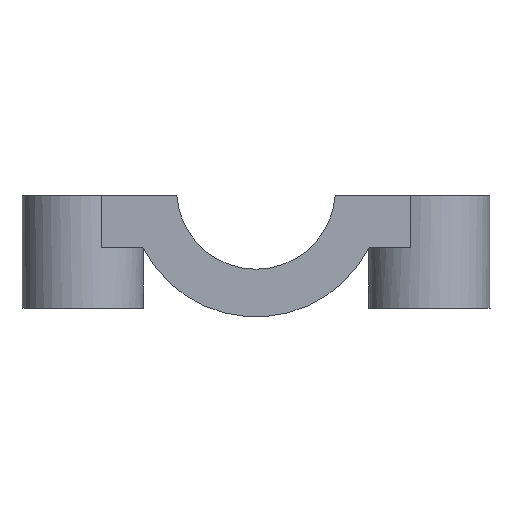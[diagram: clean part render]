
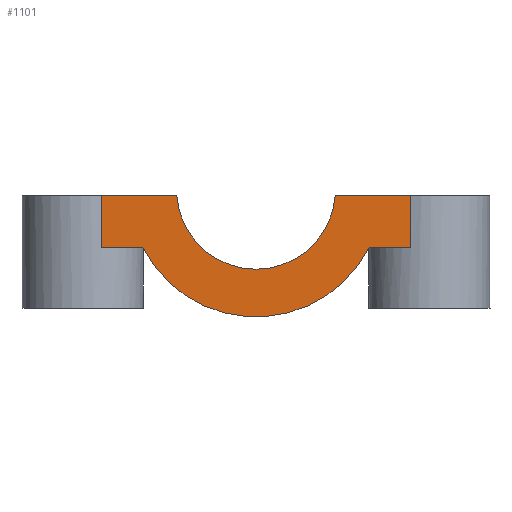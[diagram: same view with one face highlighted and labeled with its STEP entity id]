
A CAD part, left-side view. The second image highlights one B-rep face of the part: STEP entity #1101.
In plain terms, the highlighted planar face has unit normal (-1, 0, 0).
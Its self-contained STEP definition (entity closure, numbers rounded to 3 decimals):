
#44 = PLANE('',#45);
#45 = AXIS2_PLACEMENT_3D('',#46,#47,#48);
#46 = CARTESIAN_POINT('',(10.,-3.,-5.7));
#47 = DIRECTION('',(0.,0.,1.));
#48 = DIRECTION('',(1.,0.,0.));
#72 = CYLINDRICAL_SURFACE('',#73,2.1);
#73 = AXIS2_PLACEMENT_3D('',#74,#75,#76);
#74 = CARTESIAN_POINT('',(14.5,-1.,-9.6));
#75 = DIRECTION('',(0.,0.,1.));
#76 = DIRECTION('',(1.,0.,-0.));
#128 = CYLINDRICAL_SURFACE('',#129,4.4);
#129 = AXIS2_PLACEMENT_3D('',#130,#131,#132);
#130 = CARTESIAN_POINT('',(12.5,5.,-5.5));
#131 = DIRECTION('',(1.,0.,0.));
#132 = DIRECTION('',(-0.,0.,1.));
#184 = CYLINDRICAL_SURFACE('',#185,2.1);
#185 = AXIS2_PLACEMENT_3D('',#186,#187,#188);
#186 = CARTESIAN_POINT('',(14.5,11.,-9.6));
#187 = DIRECTION('',(0.,0.,1.));
#188 = DIRECTION('',(1.,0.,-0.));
#211 = PLANE('',#212);
#212 = AXIS2_PLACEMENT_3D('',#213,#214,#215);
#213 = CARTESIAN_POINT('',(10.,-3.,-5.7));
#214 = DIRECTION('',(0.,0.,1.));
#215 = DIRECTION('',(1.,0.,0.));
#339 = VERTEX_POINT('',#340);
#340 = CARTESIAN_POINT('',(12.5,2.257,-5.7));
#356 = CYLINDRICAL_SURFACE('',#357,2.75);
#357 = AXIS2_PLACEMENT_3D('',#358,#359,#360);
#358 = CARTESIAN_POINT('',(6.,5.,-5.5));
#359 = DIRECTION('',(1.,0.,0.));
#360 = DIRECTION('',(-0.,0.,1.));
#368 = EDGE_CURVE('',#339,#369,#371,.T.);
#369 = VERTEX_POINT('',#370);
#370 = CARTESIAN_POINT('',(12.5,-0.36,-5.7));
#371 = SURFACE_CURVE('',#372,(#376,#383),.PCURVE_S1.);
#372 = LINE('',#373,#374);
#373 = CARTESIAN_POINT('',(12.5,2.257,-5.7));
#374 = VECTOR('',#375,1.);
#375 = DIRECTION('',(0.,-1.,0.));
#376 = PCURVE('',#44,#377);
#377 = DEFINITIONAL_REPRESENTATION('',(#378),#382);
#378 = LINE('',#379,#380);
#379 = CARTESIAN_POINT('',(2.5,5.257));
#380 = VECTOR('',#381,1.);
#381 = DIRECTION('',(0.,-1.));
#382 = ( GEOMETRIC_REPRESENTATION_CONTEXT(2) 
PARAMETRIC_REPRESENTATION_CONTEXT() REPRESENTATION_CONTEXT('2D SPACE',''
  ) );
#383 = PCURVE('',#384,#389);
#384 = PLANE('',#385);
#385 = AXIS2_PLACEMENT_3D('',#386,#387,#388);
#386 = CARTESIAN_POINT('',(12.5,5.,-5.5));
#387 = DIRECTION('',(1.,0.,0.));
#388 = DIRECTION('',(-0.,0.,1.));
#389 = DEFINITIONAL_REPRESENTATION('',(#390),#394);
#390 = LINE('',#391,#392);
#391 = CARTESIAN_POINT('',(-0.2,2.743));
#392 = VECTOR('',#393,1.);
#393 = DIRECTION('',(0.,1.));
#394 = ( GEOMETRIC_REPRESENTATION_CONTEXT(2) 
PARAMETRIC_REPRESENTATION_CONTEXT() REPRESENTATION_CONTEXT('2D SPACE',''
  ) );
#680 = VERTEX_POINT('',#681);
#681 = CARTESIAN_POINT('',(12.5,1.081,-7.5));
#694 = PLANE('',#695);
#695 = AXIS2_PLACEMENT_3D('',#696,#697,#698);
#696 = CARTESIAN_POINT('',(12.5,-1.,-7.5));
#697 = DIRECTION('',(0.,0.,1.));
#698 = DIRECTION('',(1.,0.,0.));
#705 = EDGE_CURVE('',#680,#706,#708,.T.);
#706 = VERTEX_POINT('',#707);
#707 = CARTESIAN_POINT('',(12.5,8.919,-7.5));
#708 = SURFACE_CURVE('',#709,(#714,#721),.PCURVE_S1.);
#709 = CIRCLE('',#710,4.4);
#710 = AXIS2_PLACEMENT_3D('',#711,#712,#713);
#711 = CARTESIAN_POINT('',(12.5,5.,-5.5));
#712 = DIRECTION('',(1.,0.,0.));
#713 = DIRECTION('',(-0.,0.,1.));
#714 = PCURVE('',#128,#715);
#715 = DEFINITIONAL_REPRESENTATION('',(#716),#720);
#716 = LINE('',#717,#718);
#717 = CARTESIAN_POINT('',(0.,0.));
#718 = VECTOR('',#719,1.);
#719 = DIRECTION('',(1.,0.));
#720 = ( GEOMETRIC_REPRESENTATION_CONTEXT(2) 
PARAMETRIC_REPRESENTATION_CONTEXT() REPRESENTATION_CONTEXT('2D SPACE',''
  ) );
#721 = PCURVE('',#384,#722);
#722 = DEFINITIONAL_REPRESENTATION('',(#723),#727);
#723 = CIRCLE('',#724,4.4);
#724 = AXIS2_PLACEMENT_2D('',#725,#726);
#725 = CARTESIAN_POINT('',(0.,0.));
#726 = DIRECTION('',(1.,0.));
#727 = ( GEOMETRIC_REPRESENTATION_CONTEXT(2) 
PARAMETRIC_REPRESENTATION_CONTEXT() REPRESENTATION_CONTEXT('2D SPACE',''
  ) );
#744 = PLANE('',#745);
#745 = AXIS2_PLACEMENT_3D('',#746,#747,#748);
#746 = CARTESIAN_POINT('',(12.5,5.,-7.5));
#747 = DIRECTION('',(0.,0.,1.));
#748 = DIRECTION('',(1.,0.,0.));
#872 = EDGE_CURVE('',#873,#369,#875,.T.);
#873 = VERTEX_POINT('',#874);
#874 = CARTESIAN_POINT('',(12.5,-0.36,-7.5));
#875 = SURFACE_CURVE('',#876,(#880,#886),.PCURVE_S1.);
#876 = LINE('',#877,#878);
#877 = CARTESIAN_POINT('',(12.5,-0.36,-9.6));
#878 = VECTOR('',#879,1.);
#879 = DIRECTION('',(0.,0.,1.));
#880 = PCURVE('',#72,#881);
#881 = DEFINITIONAL_REPRESENTATION('',(#882),#885);
#882 = B_SPLINE_CURVE_WITH_KNOTS('',1,(#883,#884),.UNSPECIFIED.,.F.,.F.,
  (2,2),(1.92,3.9),.PIECEWISE_BEZIER_KNOTS.);
#883 = CARTESIAN_POINT('',(2.832,1.92));
#884 = CARTESIAN_POINT('',(2.832,3.9));
#885 = ( GEOMETRIC_REPRESENTATION_CONTEXT(2) 
PARAMETRIC_REPRESENTATION_CONTEXT() REPRESENTATION_CONTEXT('2D SPACE',''
  ) );
#886 = PCURVE('',#384,#887);
#887 = DEFINITIONAL_REPRESENTATION('',(#888),#892);
#888 = LINE('',#889,#890);
#889 = CARTESIAN_POINT('',(-4.1,5.36));
#890 = VECTOR('',#891,1.);
#891 = DIRECTION('',(1.,0.));
#892 = ( GEOMETRIC_REPRESENTATION_CONTEXT(2) 
PARAMETRIC_REPRESENTATION_CONTEXT() REPRESENTATION_CONTEXT('2D SPACE',''
  ) );
#976 = EDGE_CURVE('',#977,#339,#979,.T.);
#977 = VERTEX_POINT('',#978);
#978 = CARTESIAN_POINT('',(12.5,7.743,-5.7));
#979 = SURFACE_CURVE('',#980,(#985,#992),.PCURVE_S1.);
#980 = CIRCLE('',#981,2.75);
#981 = AXIS2_PLACEMENT_3D('',#982,#983,#984);
#982 = CARTESIAN_POINT('',(12.5,5.,-5.5));
#983 = DIRECTION('',(-1.,0.,0.));
#984 = DIRECTION('',(0.,0.997,-0.073));
#985 = PCURVE('',#356,#986);
#986 = DEFINITIONAL_REPRESENTATION('',(#987),#991);
#987 = LINE('',#988,#989);
#988 = CARTESIAN_POINT('',(4.64,6.5));
#989 = VECTOR('',#990,1.);
#990 = DIRECTION('',(-1.,-0.));
#991 = ( GEOMETRIC_REPRESENTATION_CONTEXT(2) 
PARAMETRIC_REPRESENTATION_CONTEXT() REPRESENTATION_CONTEXT('2D SPACE',''
  ) );
#992 = PCURVE('',#384,#993);
#993 = DEFINITIONAL_REPRESENTATION('',(#994),#1002);
#994 = ( BOUNDED_CURVE() B_SPLINE_CURVE(2,(#995,#996,#997,#998,#999,
#1000,#1001),.UNSPECIFIED.,.T.,.F.) B_SPLINE_CURVE_WITH_KNOTS((1,2,2,2,2
    ,1),(-2.094,0.,2.094,4.189,6.283,
8.378),.UNSPECIFIED.) CURVE() GEOMETRIC_REPRESENTATION_ITEM() 
RATIONAL_B_SPLINE_CURVE((1.,0.5,1.,0.5,1.,0.5,1.)) REPRESENTATION_ITEM(
  '') );
#995 = CARTESIAN_POINT('',(-0.2,-2.743));
#996 = CARTESIAN_POINT('',(-4.951,-2.396));
#997 = CARTESIAN_POINT('',(-2.275,1.545));
#998 = CARTESIAN_POINT('',(0.4,5.485));
#999 = CARTESIAN_POINT('',(2.475,1.198));
#1000 = CARTESIAN_POINT('',(4.551,-3.089));
#1001 = CARTESIAN_POINT('',(-0.2,-2.743));
#1002 = ( GEOMETRIC_REPRESENTATION_CONTEXT(2) 
PARAMETRIC_REPRESENTATION_CONTEXT() REPRESENTATION_CONTEXT('2D SPACE',''
  ) );
#1101 = ADVANCED_FACE('',(#1102),#384,.F.);
#1102 = FACE_BOUND('',#1103,.F.);
#1103 = EDGE_LOOP('',(#1104,#1105,#1106,#1127,#1128,#1151,#1173,#1194));
#1104 = ORIENTED_EDGE('',*,*,#368,.T.);
#1105 = ORIENTED_EDGE('',*,*,#872,.F.);
#1106 = ORIENTED_EDGE('',*,*,#1107,.T.);
#1107 = EDGE_CURVE('',#873,#680,#1108,.T.);
#1108 = SURFACE_CURVE('',#1109,(#1113,#1120),.PCURVE_S1.);
#1109 = LINE('',#1110,#1111);
#1110 = CARTESIAN_POINT('',(12.5,-1.,-7.5));
#1111 = VECTOR('',#1112,1.);
#1112 = DIRECTION('',(0.,1.,0.));
#1113 = PCURVE('',#384,#1114);
#1114 = DEFINITIONAL_REPRESENTATION('',(#1115),#1119);
#1115 = LINE('',#1116,#1117);
#1116 = CARTESIAN_POINT('',(-2.,6.));
#1117 = VECTOR('',#1118,1.);
#1118 = DIRECTION('',(0.,-1.));
#1119 = ( GEOMETRIC_REPRESENTATION_CONTEXT(2) 
PARAMETRIC_REPRESENTATION_CONTEXT() REPRESENTATION_CONTEXT('2D SPACE',''
  ) );
#1120 = PCURVE('',#694,#1121);
#1121 = DEFINITIONAL_REPRESENTATION('',(#1122),#1126);
#1122 = LINE('',#1123,#1124);
#1123 = CARTESIAN_POINT('',(0.,0.));
#1124 = VECTOR('',#1125,1.);
#1125 = DIRECTION('',(0.,1.));
#1126 = ( GEOMETRIC_REPRESENTATION_CONTEXT(2) 
PARAMETRIC_REPRESENTATION_CONTEXT() REPRESENTATION_CONTEXT('2D SPACE',''
  ) );
#1127 = ORIENTED_EDGE('',*,*,#705,.T.);
#1128 = ORIENTED_EDGE('',*,*,#1129,.T.);
#1129 = EDGE_CURVE('',#706,#1130,#1132,.T.);
#1130 = VERTEX_POINT('',#1131);
#1131 = CARTESIAN_POINT('',(12.5,10.36,-7.5));
#1132 = SURFACE_CURVE('',#1133,(#1137,#1144),.PCURVE_S1.);
#1133 = LINE('',#1134,#1135);
#1134 = CARTESIAN_POINT('',(12.5,5.,-7.5));
#1135 = VECTOR('',#1136,1.);
#1136 = DIRECTION('',(0.,1.,0.));
#1137 = PCURVE('',#384,#1138);
#1138 = DEFINITIONAL_REPRESENTATION('',(#1139),#1143);
#1139 = LINE('',#1140,#1141);
#1140 = CARTESIAN_POINT('',(-2.,0.));
#1141 = VECTOR('',#1142,1.);
#1142 = DIRECTION('',(0.,-1.));
#1143 = ( GEOMETRIC_REPRESENTATION_CONTEXT(2) 
PARAMETRIC_REPRESENTATION_CONTEXT() REPRESENTATION_CONTEXT('2D SPACE',''
  ) );
#1144 = PCURVE('',#744,#1145);
#1145 = DEFINITIONAL_REPRESENTATION('',(#1146),#1150);
#1146 = LINE('',#1147,#1148);
#1147 = CARTESIAN_POINT('',(0.,0.));
#1148 = VECTOR('',#1149,1.);
#1149 = DIRECTION('',(0.,1.));
#1150 = ( GEOMETRIC_REPRESENTATION_CONTEXT(2) 
PARAMETRIC_REPRESENTATION_CONTEXT() REPRESENTATION_CONTEXT('2D SPACE',''
  ) );
#1151 = ORIENTED_EDGE('',*,*,#1152,.T.);
#1152 = EDGE_CURVE('',#1130,#1153,#1155,.T.);
#1153 = VERTEX_POINT('',#1154);
#1154 = CARTESIAN_POINT('',(12.5,10.36,-5.7));
#1155 = SURFACE_CURVE('',#1156,(#1160,#1167),.PCURVE_S1.);
#1156 = LINE('',#1157,#1158);
#1157 = CARTESIAN_POINT('',(12.5,10.36,-9.6));
#1158 = VECTOR('',#1159,1.);
#1159 = DIRECTION('',(0.,0.,1.));
#1160 = PCURVE('',#384,#1161);
#1161 = DEFINITIONAL_REPRESENTATION('',(#1162),#1166);
#1162 = LINE('',#1163,#1164);
#1163 = CARTESIAN_POINT('',(-4.1,-5.36));
#1164 = VECTOR('',#1165,1.);
#1165 = DIRECTION('',(1.,0.));
#1166 = ( GEOMETRIC_REPRESENTATION_CONTEXT(2) 
PARAMETRIC_REPRESENTATION_CONTEXT() REPRESENTATION_CONTEXT('2D SPACE',''
  ) );
#1167 = PCURVE('',#184,#1168);
#1168 = DEFINITIONAL_REPRESENTATION('',(#1169),#1172);
#1169 = B_SPLINE_CURVE_WITH_KNOTS('',1,(#1170,#1171),.UNSPECIFIED.,.F.,
  .F.,(2,2),(1.92,3.9),.PIECEWISE_BEZIER_KNOTS.);
#1170 = CARTESIAN_POINT('',(3.451,1.92));
#1171 = CARTESIAN_POINT('',(3.451,3.9));
#1172 = ( GEOMETRIC_REPRESENTATION_CONTEXT(2) 
PARAMETRIC_REPRESENTATION_CONTEXT() REPRESENTATION_CONTEXT('2D SPACE',''
  ) );
#1173 = ORIENTED_EDGE('',*,*,#1174,.F.);
#1174 = EDGE_CURVE('',#977,#1153,#1175,.T.);
#1175 = SURFACE_CURVE('',#1176,(#1180,#1187),.PCURVE_S1.);
#1176 = LINE('',#1177,#1178);
#1177 = CARTESIAN_POINT('',(12.5,7.743,-5.7));
#1178 = VECTOR('',#1179,1.);
#1179 = DIRECTION('',(0.,1.,0.));
#1180 = PCURVE('',#384,#1181);
#1181 = DEFINITIONAL_REPRESENTATION('',(#1182),#1186);
#1182 = LINE('',#1183,#1184);
#1183 = CARTESIAN_POINT('',(-0.2,-2.743));
#1184 = VECTOR('',#1185,1.);
#1185 = DIRECTION('',(0.,-1.));
#1186 = ( GEOMETRIC_REPRESENTATION_CONTEXT(2) 
PARAMETRIC_REPRESENTATION_CONTEXT() REPRESENTATION_CONTEXT('2D SPACE',''
  ) );
#1187 = PCURVE('',#211,#1188);
#1188 = DEFINITIONAL_REPRESENTATION('',(#1189),#1193);
#1189 = LINE('',#1190,#1191);
#1190 = CARTESIAN_POINT('',(2.5,10.743));
#1191 = VECTOR('',#1192,1.);
#1192 = DIRECTION('',(0.,1.));
#1193 = ( GEOMETRIC_REPRESENTATION_CONTEXT(2) 
PARAMETRIC_REPRESENTATION_CONTEXT() REPRESENTATION_CONTEXT('2D SPACE',''
  ) );
#1194 = ORIENTED_EDGE('',*,*,#976,.T.);
